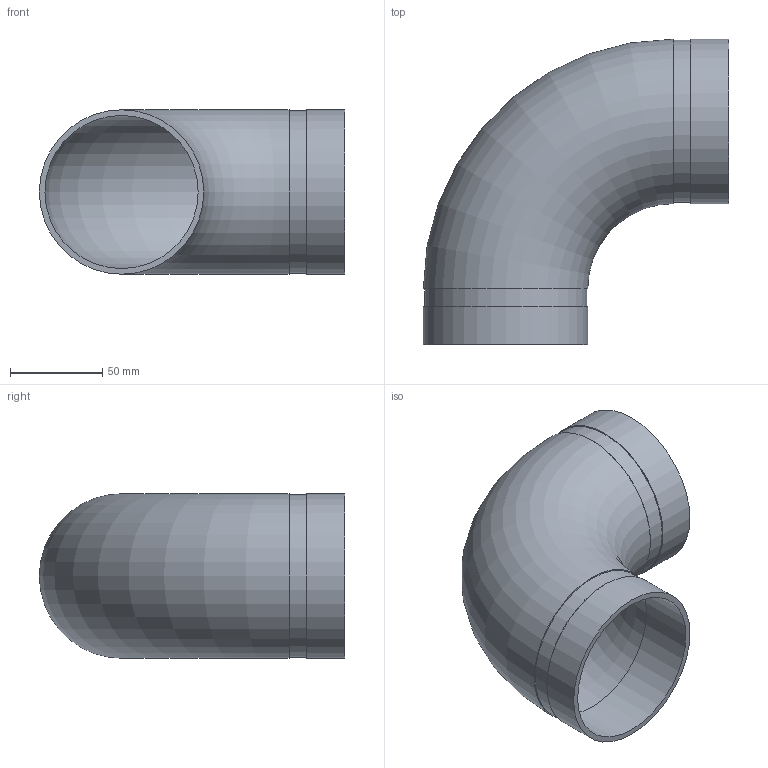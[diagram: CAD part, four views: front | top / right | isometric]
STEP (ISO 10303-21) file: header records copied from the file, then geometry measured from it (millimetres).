
FILE_DESCRIPTION(/* description */ ('VIC 90 DEG ELBOW STYLE 401DX','CAx-IF Rec.Pracs.---Representation and Presentation of Product Manufacturing Information (PMI)---4.0---2014-10-13'),/* implementation_level */ '2;1');
FILE_NAME(/* name */ 'C:\Users\kkamble\AppData\Roaming\Autodesk\ApplicationPlugins\Back Up\Victaulic_SS-StrengThin_Elbow 90 Deg_No 401DX (STG)\Victaulic_SS-StrengThin_Elbow 90 Deg_No 401DX (STG)_3 (80).stp',/* time_stamp */ '2020-08-17T13:28:12+06:00',/* author */ ('cps_temp'),/* organization */ ('Victaulic'),/* preprocessor_version */ 'ST-DEVELOPER v17.2',/* originating_system */ 'Autodesk Inventor 2019',/* authorisation */ '');
FILE_SCHEMA (('CONFIG_CONTROL_DESIGN','AP203_CONFIGURATION_CONTROLLED_3D_DESIGN_OF_MECHANICAL_PARTS_AND_ASSEMBLIES_MIM_LF { 1 0 10303 203 3 1 4 }','AP242_MANAGED_MODEL_BASED_3D_ENGINEERING_MIM_LF { 1 0 10303 442 1 1 4 }'));
Length unit declared in the file: inch
Products named in the file (1): 401DX-03.0
Bounding box: 165.1 x 165.1 x 88.9 mm (x, y, z)
Volume: 163064 mm3; surface area: 111470.9 mm2
Topology: 1 solids, 1 shells, 14 faces, 30 edges, 22 vertices
Faces by surface type: plane 6, cylinder 6, torus 2
Full cylindrical faces by diameter (mm): 82.804 x2, 87.63 x2, 88.9 x2
Entity records: 556 total; most frequent: DIRECTION 110, CARTESIAN_POINT 84, ORIENTED_EDGE 60, AXIS2_PLACEMENT_3D 52, EDGE_CURVE 30, CIRCLE 24, VERTEX_POINT 22, EDGE_LOOP 20
